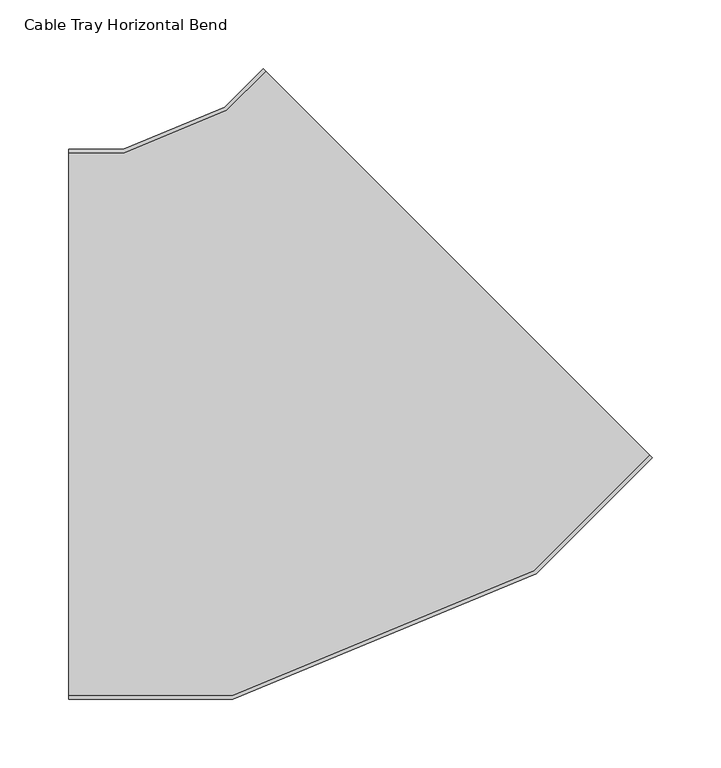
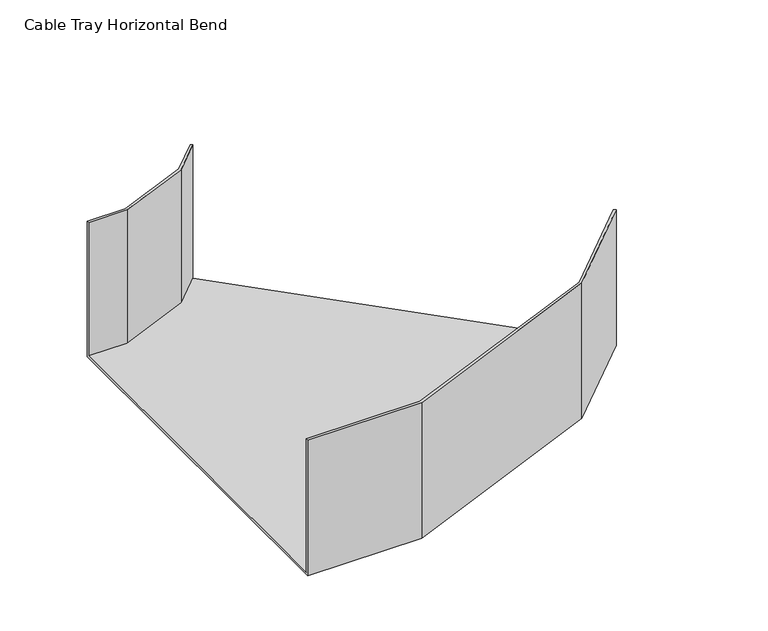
"""IFC4 building model written with IfcOpenShell, lengths in millimetres: cable carrier fitting geometry, Cable Tray Horizontal Bend : ELEC_ELV_TKG_N2402."""

from ifc_helpers import new_model, si_unit, origin, place, context, project, spatial, faceted_brep, source, transform, mapped, element, save


def cable_tray_horizontal_bend_b305b8b5(model_context):
    return source(origin(), model_context, "Body", "Brep", [
        faceted_brep([(-165.68543, -200.0, -75.0), (-165.68543, -200.0, 75.0), (-165.68543, -197.46, 75.0), (-165.68543, -197.46, -72.46), (-165.68543, 197.46, -72.46), (-165.68543, 197.46, 75.0), (-165.68543, 200.0, 75.0), (-165.68543, 200.0, -75.0), (258.5786479, -24.2640595, -75.0), (-24.2640707, 258.5786468, -75.0), (-24.2640707, 258.5786468, 75.0), (-22.4680195, 256.7825957, 75.0), (-22.4680195, 256.7825957, -72.46), (256.7825966, -22.4680083, -72.46), (256.7825966, -22.4680083, 75.0), (258.5786479, -24.2640595, 75.0), (-46.3380062, -200.0, -75.0), (-46.3380062, -200.0, 75.0), (174.187277, -108.655434, 75.0), (172.7484826, -106.502126, 75.0), (-46.8432436, -197.46, 75.0), (-46.8432436, -197.46, -72.46), (172.7484826, -106.502126, -72.46), (-50.9557332, 228.2948807, -72.46), (-125.397718, 197.46, -72.46), (-125.397718, 197.46, 75.0), (-50.9557332, 228.2948807, 75.0), (-52.3945277, 230.4481887, 75.0), (-125.9029554, 200.0, 75.0), (-125.9029554, 200.0, -75.0), (-52.3945277, 230.4481887, -75.0), (174.187277, -108.655434, -75.0)], [[[0, 1, 2, 3, 4, 5, 6, 7]], [[8, 9, 10, 11, 12, 13, 14, 15]], [[1, 0, 16, 17]], [[2, 1, 17, 18, 15, 14, 19, 20]], [[3, 2, 20, 21]], [[4, 3, 21, 22, 13, 12, 23, 24]], [[5, 4, 24, 25]], [[6, 5, 25, 26, 11, 10, 27, 28]], [[7, 6, 28, 29]], [[0, 7, 29, 30, 9, 8, 31, 16]], [[17, 16, 31, 18]], [[21, 20, 19, 22]], [[25, 24, 23, 26]], [[29, 28, 27, 30]], [[18, 31, 8, 15]], [[22, 19, 14, 13]], [[26, 23, 12, 11]], [[30, 27, 10, 9]]]),
    ])


if __name__ == "__main__":
    model = new_model("IFC4")
    model_context = context("Model", 3, world=origin())
    ifc_project = project(units=[si_unit("LENGTHUNIT", "METRE", prefix="MILLI")], contexts=[model_context])
    site = spatial("IfcSite", under=ifc_project)
    building = spatial("IfcBuilding", under=site)
    placement = place(None, origin())
    cable_tray_horizontal_bend_shape = cable_tray_horizontal_bend_b305b8b5(model_context)
    element("IfcCableCarrierFitting", 1, ObjectType="Cable Tray Horizontal Bend : ELEC_ELV_TKG_N2402", at=placement, inside=building, context=model_context, shape_type="MappedRepresentation", body=[
        mapped(cable_tray_horizontal_bend_shape, transform((0.0, 0.0, 0.0), x_axis=(1.0, 0.0, 0.0), y_axis=(0.0, 1.0, 0.0), z_axis=(0.0, 0.0, 1.0))),
    ])
    save(model, "model.ifc")
